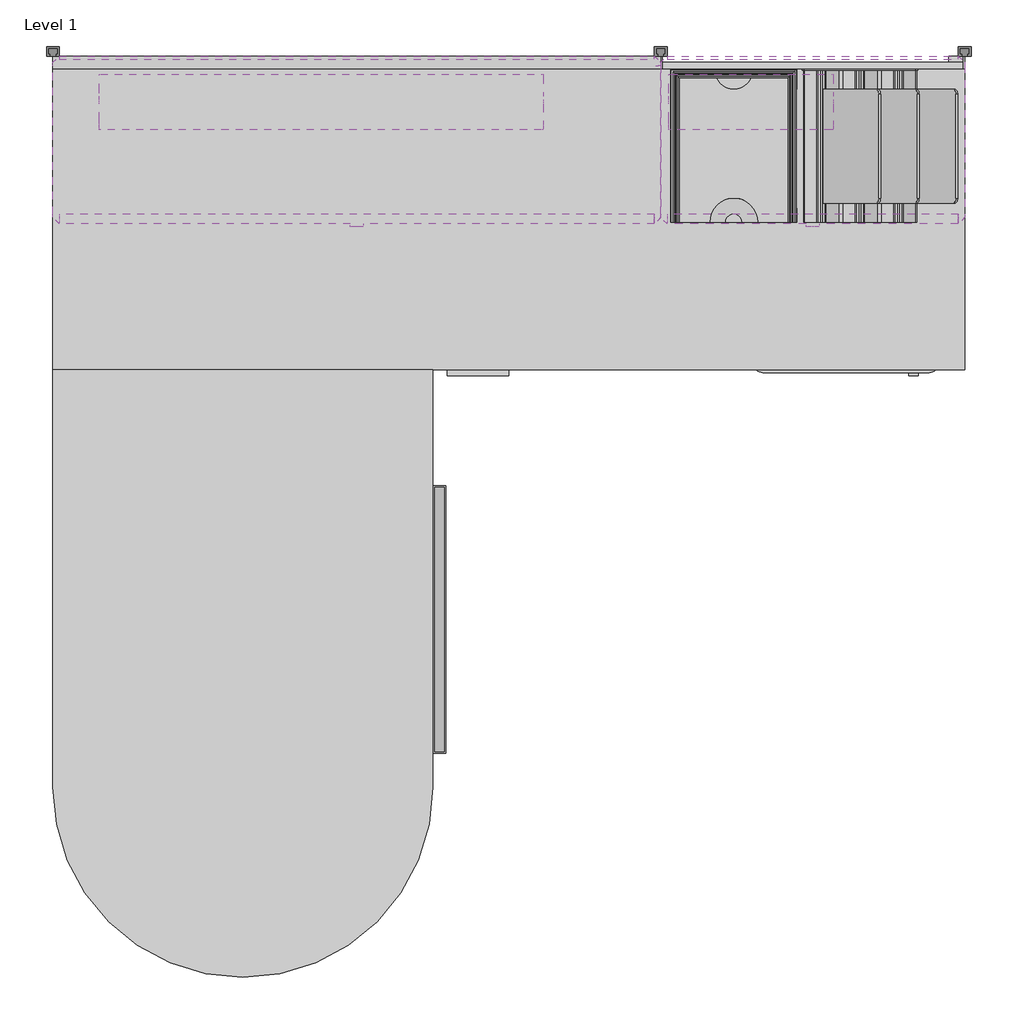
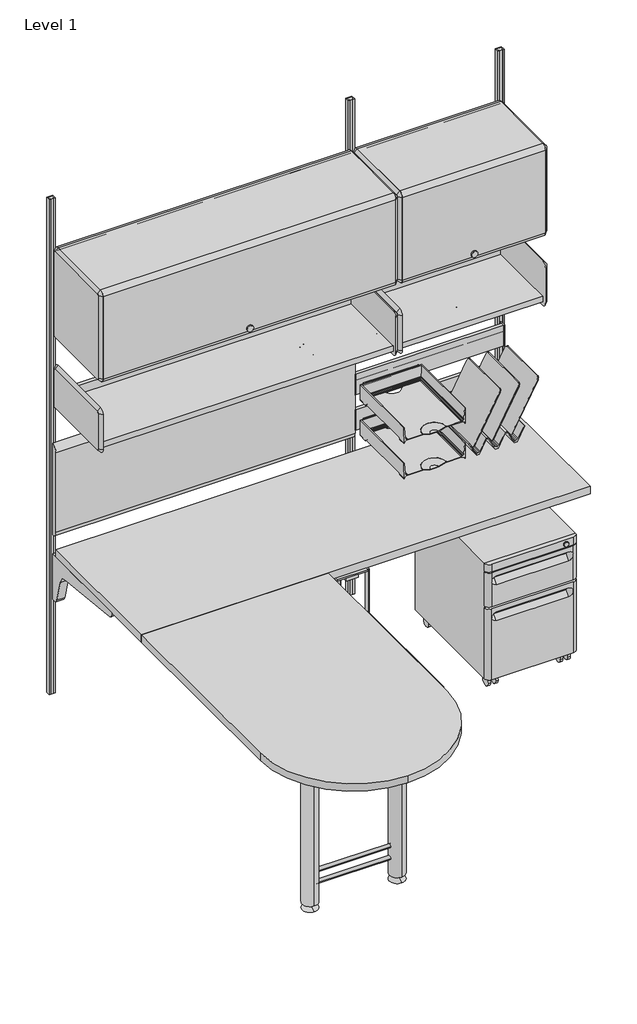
# One storey, incomplete: 18 furniture elements, 2 light fixtures.
"""IFC4 building model written with IfcOpenShell, lengths in millimetres."""

from ifc_helpers import new_model, si_unit, origin, place, context, project, spatial, transform, mapped, element, save
from components import furniture_84c54a78, furniture_5639b6dc, furniture_75fc3fe0, furniture_a2665887, furniture_baef4f76, furniture_d9179111, furniture_33cd207f, furniture_ae017f2a, furniture_f3dbc57d, furniture_6a59721d, furniture_2520e590, furniture_cb78dd66, furniture_fea97cc0, furniture_d79be94d, furniture_ea425779, vertical_a4187a12, light_fixture_d29e1486, light_fixture_6c250f8a

model = new_model("IFC4")

# Units and contexts
model_context = context("Model", 3, world=origin())
ifc_project = project(units=[si_unit("LENGTHUNIT", "METRE", prefix="MILLI")], contexts=[model_context])

# Site, building, storey
site = spatial("IfcSite", under=ifc_project)
building = spatial("IfcBuilding", under=site)
storey = spatial("IfcBuildingStorey", under=building, Name="Level 1", Elevation=0.0)

# Furniture
placement = place(None, origin())
furniture_shape = furniture_84c54a78(model_context)
element("IfcFurniture", 1, ObjectType="HermanMiller_QuadrantFiling_G5111_MobilePedestal : 21-1/2\"H x 20\"D x 15\"W BF", at=placement, inside=storey, context=model_context, shape_type="MappedRepresentation", body=[
    mapped(furniture_shape, transform((1590.86296, -390.382763, 0.0), x_axis=(1.0, 0.0, 0.0), y_axis=(0.0, 1.0, 0.0), z_axis=(0.0, 0.0, 1.0))),
])
furniture_2_shape = furniture_5639b6dc(model_context)
element("IfcFurniture", 2, ObjectType="HermanMiller_ThrivePortfolio_Y5010_PencilDrawer : 2\"H x 16\"D x 21\"W", at=placement, inside=storey, context=model_context, shape_type="MappedRepresentation", body=[
    mapped(furniture_2_shape, transform((581.43394, -1148.96138, 0.0), x_axis=(0.0, 1.0, 0.0), y_axis=(-1.0, 0.0, 0.0), z_axis=(0.0, 0.0, 1.0))),
])
furniture_3_shape = furniture_75fc3fe0(model_context)
element("IfcFurniture", 3, ObjectType="HermanMiller_ThrivePortfolio_Y7218_DiagonalTray : 8 1/2\"H x 12\"D x 13\"W", at=placement, inside=storey, context=model_context, shape_type="MappedRepresentation", body=[
    mapped(furniture_3_shape, transform((1619.226897, -198.47052, 0.0), x_axis=(1.0, 0.0, 0.0), y_axis=(0.0, 1.0, 0.0), z_axis=(0.0, 0.0, 1.0))),
])
furniture_4_shape = furniture_a2665887(model_context)
element("IfcFurniture", 4, ObjectType="HermanMiller_ThrivePortfolio_Y7216_PaperTray : 3\"H x 12\"D x 10\"W", at=placement, inside=storey, context=model_context, shape_type="MappedRepresentation", body=[
    mapped(furniture_4_shape, transform((1365.4024, -198.47052, 0.0), x_axis=(1.0, 0.0, 0.0), y_axis=(0.0, 1.0, 0.0), z_axis=(0.0, 0.0, 1.0))),
])
furniture_5_shape = furniture_baef4f76(model_context)
element("IfcFurniture", 5, ObjectType="HermanMiller_ThrivePortfolio_Y7216_PaperTray : 3\"H x 12\"D x 10\"W", at=placement, inside=storey, context=model_context, shape_type="MappedRepresentation", body=[
    mapped(furniture_5_shape, transform((1365.4024, -198.47052, 0.0), x_axis=(1.0, 0.0, 0.0), y_axis=(0.0, 1.0, 0.0), z_axis=(0.0, 0.0, 1.0))),
])
furniture_6_shape = furniture_d9179111(model_context)
element("IfcFurniture", 6, ObjectType="HermanMiller_ActionOffice_A3220_B-StyleStorageDisplay : Shelf 13\"D x 48\"W", at=placement, inside=storey, context=model_context, shape_type="MappedRepresentation", body=[
    mapped(furniture_6_shape, transform((733.5420045, -200.025, 0.0), x_axis=(1.0, 0.0, 0.0), y_axis=(0.0, 1.0, 0.0), z_axis=(0.0, 0.0, 1.0))),
])
furniture_7_shape = furniture_33cd207f(model_context)
element("IfcFurniture", 7, ObjectType="HermanMiller_ActionOffice_A3352_B-StyleFlipperDoorUnit : 15 1/2\"H x 13\"D x 48\"W", at=placement, inside=storey, context=model_context, shape_type="MappedRepresentation", body=[
    mapped(furniture_7_shape, transform((609.6, -200.025, 0.0), x_axis=(1.0, 0.0, 0.0), y_axis=(0.0, 1.0, 0.0), z_axis=(0.0, 0.0, 1.0))),
])
furniture_8_shape = furniture_ae017f2a(model_context)
element("IfcFurniture", 8, ObjectType="HermanMiller_ActionOffice_A3220_B-StyleStorageDisplay : Shelf 13\"D x 24\"W", at=placement, inside=storey, context=model_context, shape_type="MappedRepresentation", body=[
    mapped(furniture_8_shape, transform((1647.9420045, -200.025, 0.0), x_axis=(1.0, 0.0, 0.0), y_axis=(0.0, 1.0, 0.0), z_axis=(0.0, 0.0, 1.0))),
])
furniture_9_shape = furniture_f3dbc57d(model_context)
element("IfcFurniture", 9, ObjectType="HermanMiller_ActionOffice_A2310_Sq-EdgeRectangularWorkSurface : 24\"D x 72\"W", at=placement, inside=storey, context=model_context, shape_type="MappedRepresentation", body=[
    mapped(furniture_9_shape, transform((914.4, -333.375, 0.0), x_axis=(1.0, 0.0, 0.0), y_axis=(0.0, 1.0, 0.0), z_axis=(0.0, 0.0, 1.0))),
])
furniture_10_shape = furniture_6a59721d(model_context)
element("IfcFurniture", 10, ObjectType="HermanMiller_ActionOffice_A3610_ToolBar : 4\"H x 24\"W", at=placement, inside=storey, context=model_context, shape_type="MappedRepresentation", body=[
    mapped(furniture_10_shape, transform((1524.0, -31.7499996, 0.0), x_axis=(1.0, 0.0, 0.0), y_axis=(0.0, 1.0, 0.0), z_axis=(0.0, 0.0, 1.0))),
])
furniture_11_shape = furniture_2520e590(model_context)
element("IfcFurniture", 11, ObjectType="HermanMiller_ActionOffice_A3610_ToolBar : 4\"H x 24\"W", at=placement, inside=storey, context=model_context, shape_type="MappedRepresentation", body=[
    mapped(furniture_11_shape, transform((1524.0, -31.7499996, 0.0), x_axis=(1.0, 0.0, 0.0), y_axis=(0.0, 1.0, 0.0), z_axis=(0.0, 0.0, 1.0))),
])
furniture_12_shape = furniture_cb78dd66(model_context)
element("IfcFurniture", 12, ObjectType="HermanMiller_ActionOffice_A3410_B-StyleTackboard : 16\"H x 48\"W", at=placement, inside=storey, context=model_context, shape_type="MappedRepresentation", body=[
    mapped(furniture_12_shape, transform((609.6, -31.75, 0.0), x_axis=(1.0, 0.0, 0.0), y_axis=(0.0, 1.0, 0.0), z_axis=(0.0, 0.0, 1.0))),
])
furniture_13_shape = furniture_fea97cc0(model_context)
element("IfcFurniture", 13, ObjectType="HermanMiller_ActionOffice_A3352_B-StyleFlipperDoorUnit : 15 1/2\"H x 13\"D x 24\"W", at=placement, inside=storey, context=model_context, shape_type="MappedRepresentation", body=[
    mapped(furniture_13_shape, transform((1524.0, -200.025, 0.0), x_axis=(1.0, 0.0, 0.0), y_axis=(0.0, 1.0, 0.0), z_axis=(0.0, 0.0, 1.0))),
])
furniture_14_shape = furniture_d79be94d(model_context)
element("IfcFurniture", 14, ObjectType="HermanMiller_ActionOffice_A2350_Sq-EdgeRound-EndPeninsula : 30\"D x 48\"W", at=placement, inside=storey, context=model_context, shape_type="MappedRepresentation", body=[
    mapped(furniture_14_shape, transform((381.0, -1028.7, 0.0), x_axis=(1.0, 0.0, 0.0), y_axis=(0.0, 1.0, 0.0), z_axis=(0.0, 0.0, 1.0))),
])
furniture_15_shape = furniture_ea425779(model_context)
element("IfcFurniture", 15, ObjectType="HermanMiller_ActionOffice_AO213_WallStrip : 84\"H", at=placement, inside=storey, context=model_context, shape_type="MappedRepresentation", body=[
    mapped(furniture_15_shape, transform((1828.8, 0.0, 0.0), x_axis=(1.0, 0.0, 0.0), y_axis=(0.0, 1.0, 0.0), z_axis=(0.0, 0.0, 1.0))),
])
element("IfcFurniture", 16, ObjectType="HermanMiller_ActionOffice_AO213_WallStrip : 84\"H", at=placement, inside=storey, context=model_context, shape_type="MappedRepresentation", body=[
    mapped(furniture_15_shape, transform((0.0, 0.0, 0.0), x_axis=(1.0, 0.0, 0.0), y_axis=(0.0, 1.0, 0.0), z_axis=(0.0, 0.0, 1.0))),
])
element("IfcFurniture", 17, ObjectType="HermanMiller_ActionOffice_AO213_WallStrip : 84\"H", at=placement, inside=storey, context=model_context, shape_type="MappedRepresentation", body=[
    mapped(furniture_15_shape, transform((1219.2, 0.0, 0.0), x_axis=(1.0, 0.0, 0.0), y_axis=(0.0, 1.0, 0.0), z_axis=(0.0, 0.0, 1.0))),
])
vertical_shape = vertical_a4187a12(model_context)
element("IfcFurniture", 18, ObjectType="HermanMiller_ThrivePortfolio_Y7813_CPUHolder : Vertical", at=placement, inside=storey, context=model_context, shape_type="MappedRepresentation", body=[
    mapped(vertical_shape, transform((852.4875, -520.7, 0.0), x_axis=(-1.0000000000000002, 0.0, 0.0), y_axis=(0.0, -1.0000000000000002, 0.0), z_axis=(0.0, 0.0, 1.0))),
])

# Light fixtures
light_fixture_shape = light_fixture_d29e1486(model_context)
element("IfcLightFixture", 19, ObjectType="HermanMiller_SupplementalProducts_G6136_UtilityTaskLight : AO Etho Canvas 42W", at=placement, inside=storey, context=model_context, shape_type="MappedRepresentation", body=[
    mapped(light_fixture_shape, transform((537.718, -111.125, 0.0), x_axis=(1.0, 0.0, 0.0), y_axis=(0.0, 1.0, 0.0), z_axis=(0.0, 0.0, 1.0))),
])
light_fixture_2_shape = light_fixture_6c250f8a(model_context)
element("IfcLightFixture", 20, ObjectType="HermanMiller_SupplementalProducts_G6136_UtilityTaskLight : AO Etho Canvas 24W", at=placement, inside=storey, context=model_context, shape_type="MappedRepresentation", body=[
    mapped(light_fixture_2_shape, transform((1400.429, -111.125, 0.0), x_axis=(1.0, 0.0, 0.0), y_axis=(0.0, 1.0, 0.0), z_axis=(0.0, 0.0, 1.0))),
])

save(model, "model.ifc")
